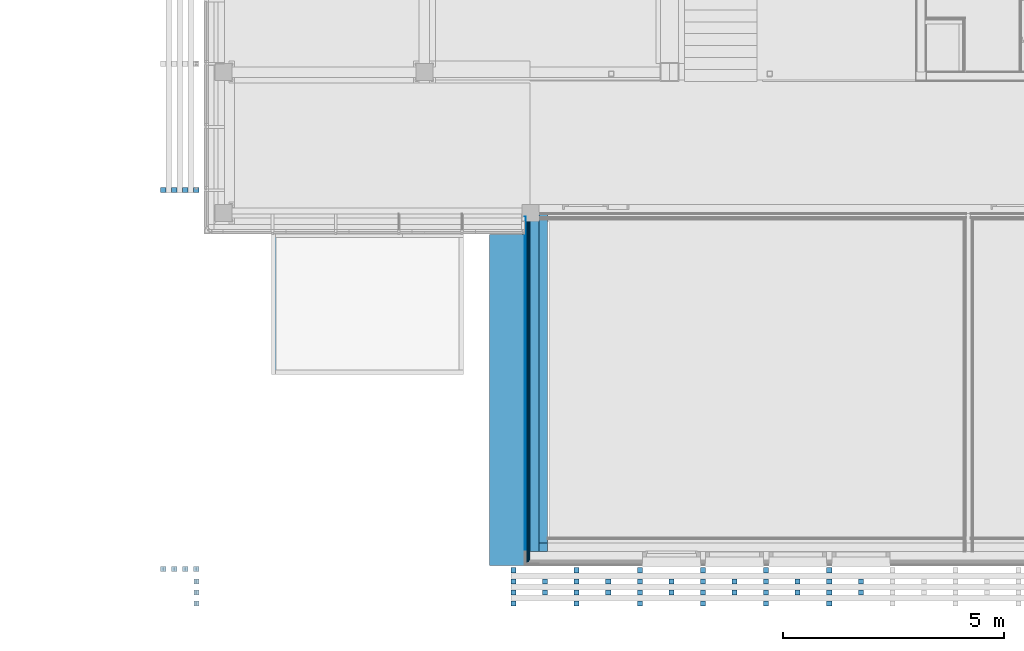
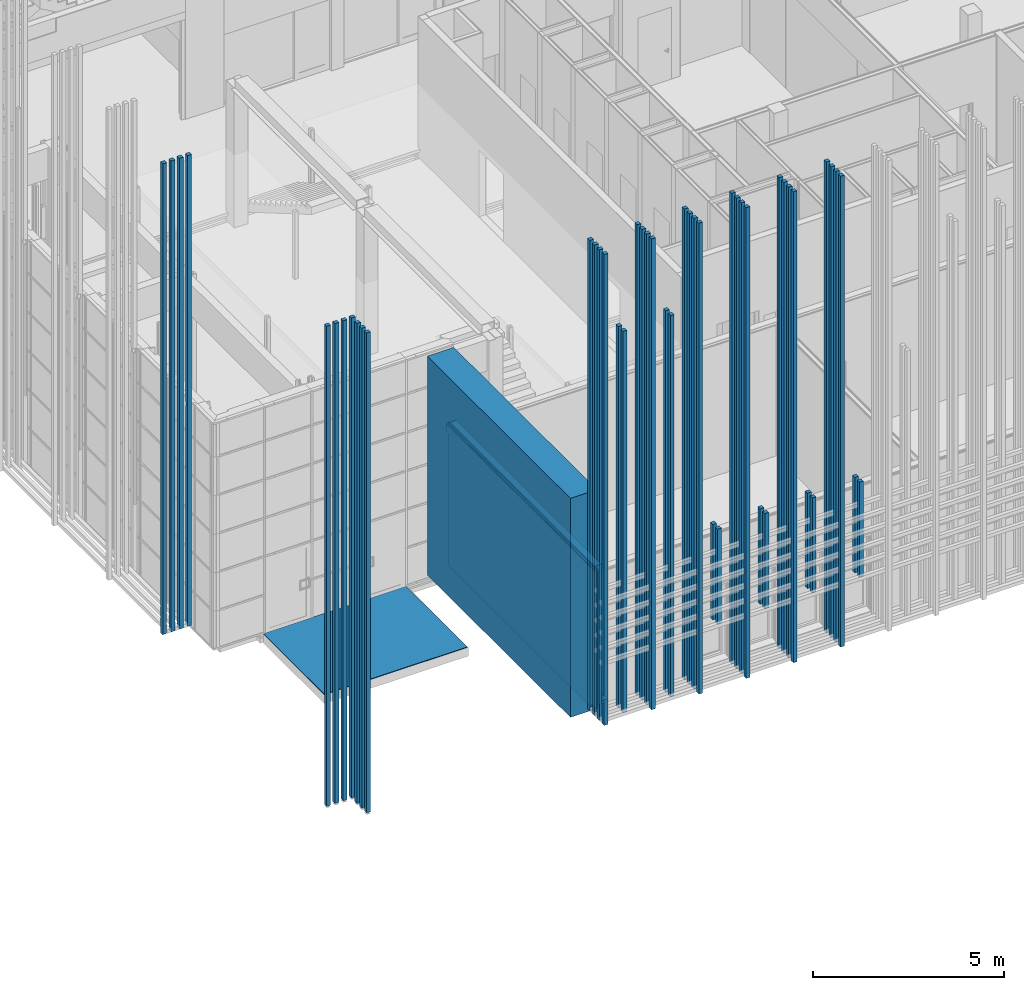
# One storey, part 132 of 260: 17 discrete accessories, 6 building element parts, 1 element without a shape of its own.
"""IFC2X3 building model written with IfcOpenShell, lengths in millimetres."""

import ifcopenshell
import ifcopenshell.guid

model = None  # the IFC model being written
_history = None  # IfcOwnerHistory: only IFC2X3 demands one
_inside = {}  # id of a spatial element -> (the spatial element, [elements in it])
_under = {}  # id of a project, library or spatial element -> (it, [spatial elements below it])
_declared = {}  # id of a project -> (the project, [libraries it declares])
_typed = {}  # id of a type object -> (the type object, [elements of that type])
_made_of = {}  # id of a material, layer set ... -> (it, [elements and type objects made of it])


def new_model(schema):
    """Start an empty IFC model of exactly this schema.

    Asked for "IFC4X3", IfcOpenShell would pick the latest addendum, in which some entities
    have other attributes; the version numbers below select the first issue.
    IFC2X3 requires an IfcOwnerHistory on every rooted entity: one is made here for all.
    """
    global model, _history
    if schema == "IFC4X3":
        model = ifcopenshell.file(schema_version=(4, 3, 0, 0))
    else:
        model = ifcopenshell.file(schema=schema)
    _inside.clear()
    _under.clear()
    _declared.clear()
    _typed.clear()
    _made_of.clear()
    _history = None
    if model.schema == "IFC2X3":
        org = make("IfcOrganization", Name="unknown")
        user = make(
            "IfcPersonAndOrganization",
            ThePerson=make("IfcPerson", FamilyName="unknown"),
            TheOrganization=org,
        )
        app = make(
            "IfcApplication",
            ApplicationDeveloper=org,
            Version="unknown",
            ApplicationFullName="unknown",
            ApplicationIdentifier="unknown",
        )
        _history = make(
            "IfcOwnerHistory",
            OwningUser=user,
            OwningApplication=app,
            ChangeAction="ADDED",
            CreationDate=0,
        )
    return model


def make(cls, **values):
    """One entity of the class cls with the attributes given. An attribute that is None is left unset."""
    return model.create_entity(
        cls, **{name: value for name, value in values.items() if value is not None}
    )


def entity(cls, *values):
    """Any entity or typed value of the class cls, its attributes in the order of the schema. None: left unset."""
    e = model.create_entity(cls)
    for i, value in enumerate(values):
        if value is not None:
            e[i] = value
    return e


def rooted(cls, **values):
    """An entity with a GlobalId (a new one), such as an element, a storey or a relation."""
    return make(cls, GlobalId=ifcopenshell.guid.new(), OwnerHistory=_history, **values)


def si_unit(unit_type, name, prefix=None):
    """IfcSIUnit, for example si_unit("LENGTHUNIT", "METRE", prefix="MILLI")."""
    return make("IfcSIUnit", UnitType=unit_type, Prefix=prefix, Name=name)


def converted_unit(unit_type, name, factor, base, dimensions=None, offset=None):
    """IfcConversionBasedUnit, such as the inch: factor (a typed value) times the base unit."""
    return make(
        "IfcConversionBasedUnit"
        if offset is None
        else "IfcConversionBasedUnitWithOffset",
        ConversionOffset=offset,
        Dimensions=None
        if dimensions is None
        else entity("IfcDimensionalExponents", *dimensions),
        UnitType=unit_type,
        Name=name,
        ConversionFactor=make(
            "IfcMeasureWithUnit", ValueComponent=factor, UnitComponent=base
        ),
    )


def derived_unit(unit_type, elements):
    """IfcDerivedUnit: a product of units, each with its exponent."""
    return make(
        "IfcDerivedUnit",
        Elements=[
            make("IfcDerivedUnitElement", Unit=unit, Exponent=power)
            for unit, power in elements
        ],
        UnitType=unit_type,
    )


def money_unit(currency):
    """IfcMonetaryUnit."""
    return make("IfcMonetaryUnit", Currency=currency)


def assignment(units):
    """IfcUnitAssignment: the units of a project."""
    return None if units is None else make("IfcUnitAssignment", Units=units)


def point(xyz):
    """IfcCartesianPoint."""
    return None if xyz is None else make("IfcCartesianPoint", Coordinates=xyz)


def direction(xyz):
    """IfcDirection."""
    return None if xyz is None else make("IfcDirection", DirectionRatios=xyz)


def frame(location, z_axis=None, x_axis=None):
    """IfcAxis2Placement3D, a coordinate frame: its origin and axes. An axis left out is left unset."""
    return make(
        "IfcAxis2Placement3D",
        Location=point(location),
        Axis=direction(z_axis),
        RefDirection=direction(x_axis),
    )


def origin_with_axes():
    """The frame at (0, 0, 0) with the z axis (0, 0, 1) and the x axis (1, 0, 0) written out."""
    return frame((0.0, 0.0, 0.0), z_axis=(0.0, 0.0, 1.0), x_axis=(1.0, 0.0, 0.0))


def place(relative_to, where):
    """IfcLocalPlacement: puts the frame where relative to a parent placement (None: the world)."""
    return make(
        "IfcLocalPlacement", PlacementRelTo=relative_to, RelativePlacement=where
    )


def context(
    kind, dimensions, precision=None, world=None, true_north=None, identifier=None
):
    """IfcGeometricRepresentationContext, for example the 3D "Model" context."""
    return make(
        "IfcGeometricRepresentationContext",
        ContextIdentifier=identifier,
        ContextType=kind,
        CoordinateSpaceDimension=dimensions,
        Precision=precision,
        WorldCoordinateSystem=world,
        TrueNorth=true_north,
    )


def subcontext(parent, identifier, kind, view, scale=None):
    """IfcGeometricRepresentationSubContext, for example "Body" below "Model"."""
    return make(
        "IfcGeometricRepresentationSubContext",
        ContextIdentifier=identifier,
        ContextType=kind,
        ParentContext=parent,
        TargetScale=scale,
        TargetView=view,
    )


def project(units=None, contexts=None):
    """IfcProject with its units and contexts."""
    return rooted(
        "IfcProject",
        Name="project",
        RepresentationContexts=contexts,
        UnitsInContext=assignment(units),
    )


def spatial(cls, under=None, at=None, **own):
    """A site, building, storey or space (cls), placed at a placement, below another one or the project."""
    s = rooted(cls, ObjectPlacement=at, **own)
    if under is not None:
        _under.setdefault(under.id(), (under, []))[1].append(s)
    return s


def faces_of(points, faces, orient=None, outer=None):
    """IfcFace entities. A face is a list of loops; a loop is a list of indices into points, from 0.

    orient and outer hold one flag for each loop. By default every Orientation is true, the
    first loop of a face is its IfcFaceOuterBound and the others are IfcFaceBound.
    """
    made = []
    for i, loops in enumerate(faces):
        bounds = []
        for j, loop in enumerate(loops):
            is_outer = j == 0 if outer is None else outer[i][j]
            bounds.append(
                make(
                    "IfcFaceOuterBound" if is_outer else "IfcFaceBound",
                    Bound=make("IfcPolyLoop", Polygon=[points[k] for k in loop]),
                    Orientation=True if orient is None else orient[i][j],
                )
            )
        made.append(make("IfcFace", Bounds=bounds))
    return made


def faceted_brep(points, faces, orient=None, outer=None, voids=None):
    """IfcFacetedBrep: a solid bounded by flat faces; with voids (closed shells), ...WithVoids."""
    shared = [point(p) for p in points]
    hull = make("IfcClosedShell", CfsFaces=faces_of(shared, faces, orient, outer))
    if voids is None:
        return make("IfcFacetedBrep", Outer=hull)
    return make(
        "IfcFacetedBrepWithVoids",
        Outer=hull,
        Voids=[
            make(cls, CfsFaces=faces_of(shared, fs, o, b)) for cls, fs, o, b in voids
        ],
    )


def shape(context_of_items, identifier, shape_type, items):
    """IfcShapeRepresentation: the items that make up one representation, for example the "Body"."""
    return make(
        "IfcShapeRepresentation",
        ContextOfItems=context_of_items,
        RepresentationIdentifier=identifier,
        RepresentationType=shape_type,
        Items=items,
    )


def material(Name=None, Category=None):
    """IfcMaterial."""
    return make("IfcMaterial", Name=Name, Category=Category)


def material_list(materials):
    """IfcMaterialList."""
    return make("IfcMaterialList", Materials=materials)


def made_of(thing, what):
    """Note that an element or type object is made of a material, layer set ...; save() writes the relation."""
    if what is not None:
        _made_of.setdefault(what.id(), (what, []))[1].append(thing)
    return thing


def type_object(cls, material=None, **own):
    """A type object (cls), such as IfcWallType, which elements share."""
    return made_of(rooted(cls, **own), material)


def element(
    cls,
    number,
    at=None,
    inside=None,
    cuts=None,
    type_object=None,
    material=None,
    context=None,
    identifier="Body",
    shape_type=None,
    held_by="IfcProductDefinitionShape",
    body=None,
    shapes=None,
    **own,
):
    """One element of the class cls, such as IfcWall. Its Tag is "e" and its number.

    at: its placement. inside: the storey or other place that contains it. cuts: it is an
    opening in that element (IfcRelVoidsElement). A single representation is given by context,
    identifier, shape_type and body (its items); several are given by shapes. held_by: the class
    of the entity that holds the representations. save() writes the other relations.
    """
    e = rooted(cls, Tag="e%d" % number, ObjectPlacement=at, **own)
    if body is not None:
        shapes = [shape(context, identifier, shape_type, body)]
    if shapes is not None:
        e.Representation = make(held_by, Representations=shapes)
    if inside is not None:
        _inside.setdefault(inside.id(), (inside, []))[1].append(e)
    if cuts is not None:
        rooted(
            "IfcRelVoidsElement", RelatingBuildingElement=cuts, RelatedOpeningElement=e
        )
    if type_object is not None:
        _typed.setdefault(type_object.id(), (type_object, []))[1].append(e)
    return made_of(e, material)


def aggregate(whole, parts):
    """IfcRelAggregates: a whole, such as a stair, and the parts it consists of."""
    return rooted("IfcRelAggregates", RelatingObject=whole, RelatedObjects=parts)


def save(model, path):
    """Write the relations noted so far, then the file.

    IfcRelAggregates (storeys below a building ...), IfcRelContainedInSpatialStructure (elements
    in a storey), IfcRelDefinesByType, IfcRelAssociatesMaterial and IfcRelDeclares: one each for
    every whole, place, type object, material and project.
    """
    for whole, parts in _under.values():
        aggregate(whole, parts)
    for where, things in _inside.values():
        rooted(
            "IfcRelContainedInSpatialStructure",
            RelatedElements=things,
            RelatingStructure=where,
        )
    for kind, things in _typed.values():
        rooted("IfcRelDefinesByType", RelatedObjects=things, RelatingType=kind)
    for what, things in _made_of.values():
        rooted("IfcRelAssociatesMaterial", RelatedObjects=things, RelatingMaterial=what)
    for by, libraries in _declared.values():
        rooted("IfcRelDeclares", RelatingContext=by, RelatedDefinitions=libraries)
    model.write(path)


model = new_model("IFC2X3")

# Units and contexts
model_context = context("Model", 3, precision=0.01, world=origin_with_axes(), true_north=direction((0.0, 1.0)))
body_context = subcontext(model_context, "Body", "Model", "MODEL_VIEW")
ifc_project = project(units=[si_unit("LENGTHUNIT", "METRE", prefix="MILLI"), si_unit("AREAUNIT", "SQUARE_METRE"), si_unit("VOLUMEUNIT", "CUBIC_METRE"), converted_unit("PLANEANGLEUNIT", "DEGREE", entity("IfcPlaneAngleMeasure", 0.0174532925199), si_unit("PLANEANGLEUNIT", "RADIAN"), dimensions=[0, 0, 0, 0, 0, 0, 0]), money_unit("EUR"), converted_unit("TIMEUNIT", "Year", entity("IfcTimeMeasure", 31556926.0), si_unit("TIMEUNIT", "SECOND"), dimensions=[0, 0, 1, 0, 0, 0, 0]), si_unit("MASSUNIT", "GRAM", prefix="KILO"), si_unit("THERMODYNAMICTEMPERATUREUNIT", "DEGREE_CELSIUS"), si_unit("LUMINOUSINTENSITYUNIT", "LUMEN"), si_unit("ENERGYUNIT", "JOULE", prefix="MEGA"), derived_unit("THERMALCONDUCTANCEUNIT", [(si_unit("POWERUNIT", "WATT"), 1), (si_unit("LENGTHUNIT", "METRE"), -1), (si_unit("THERMODYNAMICTEMPERATUREUNIT", "KELVIN"), -1)]), derived_unit("SPECIFICHEATCAPACITYUNIT", [(si_unit("ENERGYUNIT", "JOULE"), 1), (si_unit("MASSUNIT", "GRAM", prefix="KILO"), -1), (si_unit("THERMODYNAMICTEMPERATUREUNIT", "KELVIN"), -1)]), derived_unit("MASSDENSITYUNIT", [(si_unit("MASSUNIT", "GRAM", prefix="KILO"), 1), (si_unit("VOLUMEUNIT", "CUBIC_METRE"), -1)])], contexts=[model_context])

# Site, building, storey
site_placement = place(None, origin_with_axes())
site = spatial("IfcSite", under=ifc_project, at=site_placement, Name="Kolde pst 67a", CompositionType="ELEMENT")
building_placement = place(site_placement, origin_with_axes())
building = spatial("IfcBuilding", under=site, at=building_placement, Name="Riigigümnaasium", CompositionType="ELEMENT")
storey_placement = place(building_placement, origin_with_axes())
storey = spatial("IfcBuildingStorey", under=building, at=storey_placement, Name="1. korrus", CompositionType="ELEMENT", Elevation=0.0)

# Discrete accessories
ifc_material_1 = material(Name="_VÄLISVIIMISTLUS - sõrmjätkatud puitprussid 120x115mm, liitekohad vähemärgatavad, Platowood sõrmjätkatud kuusk või samaväärne; eeltöödeldud tuletõkkevõõbaga, tuletundlikkus B-s1, d0, Woodsafe Exterior WFX™ või samaväärne; kinnitused vastavalt EK osale")
ifc_material_list_1 = material_list([ifc_material_1, ifc_material_1, ifc_material_1, ifc_material_1])
discrete_accessory_type_1 = type_object("IfcDiscreteAccessoryType", Name="120 4-ne vertikaalne 870 x 115")
for number, where, z_axis, x_axis in (
    (1, (54811.6293724, -312.000647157, 280.0), (0.0, 0.0, 1.0), (6.32316306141e-05, -0.999999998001, 0.0)),
    (2, (56241.5985177, -311.998926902, 280.0), (0.0, 0.0, 1.0), (6.32316306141e-05, -0.999999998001, 0.0)),
    (3, (57671.5985177, -311.996510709, 280.0), (0.0, 0.0, 1.0), (6.32316306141e-05, -0.999999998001, 0.0)),
    (4, (59101.5985163, -312.00220116, 280.0), (0.0, 0.0, 1.0), (6.32316306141e-05, -0.999999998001, 0.0)),
    (5, (60531.5984725, -311.999961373, 280.0), (0.0, 0.0, 1.0), (6.32316306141e-05, -0.999999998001, 0.0)),
    (6, (61961.5984751, -311.999224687, 280.0), (0.0, 0.0, 1.0), (6.32316306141e-05, -0.999999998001, 0.0)),
):
    element("IfcDiscreteAccessory", number, at=place(storey_placement, frame(where, z_axis=z_axis, x_axis=x_axis)), inside=storey, type_object=discrete_accessory_type_1, material=ifc_material_list_1, Name="Päikesevarjestus", context=body_context, shape_type="Brep", body=[
        faceted_brep([(133.0, 45.0, 0.0), (13.0, 45.0, 0.0), (13.0, 45.0, 15050.0), (133.0, 45.0, 15050.0), (133.0, -70.0, 0.0), (13.0, -70.0, 0.0), (13.0, -70.0, 15050.0), (133.0, -70.0, 15050.0)], [[[0, 1, 2, 3]], [[0, 4, 5, 1]], [[1, 5, 6, 2]], [[3, 2, 6, 7]], [[4, 0, 3, 7]], [[5, 4, 7, 6]]]),
        faceted_brep([(383.0, 45.0, 0.0), (263.0, 45.0, 0.0), (263.0, 45.0, 15050.0), (383.0, 45.0, 15050.0), (383.0, -70.0, 0.0), (263.0, -70.0, 0.0), (263.0, -70.0, 15050.0), (383.0, -70.0, 15050.0)], [[[0, 1, 2, 3]], [[0, 4, 5, 1]], [[1, 5, 6, 2]], [[3, 2, 6, 7]], [[4, 0, 3, 7]], [[5, 4, 7, 6]]]),
        faceted_brep([(633.0, 45.0, 0.0), (513.0, 45.0, 0.0), (513.0, 45.0, 15050.0), (633.0, 45.0, 15050.0), (633.0, -70.0, 0.0), (513.0, -70.0, 0.0), (513.0, -70.0, 15050.0), (633.0, -70.0, 15050.0)], [[[0, 1, 2, 3]], [[0, 4, 5, 1]], [[1, 5, 6, 2]], [[3, 2, 6, 7]], [[4, 0, 3, 7]], [[5, 4, 7, 6]]]),
        faceted_brep([(883.0, 45.0, 0.0), (763.0, 45.0, 0.0), (763.0, 45.0, 15050.0), (883.0, 45.0, 15050.0), (883.0, -70.0, 0.0), (763.0, -70.0, 0.0), (763.0, -70.0, 15050.0), (883.0, -70.0, 15050.0)], [[[0, 1, 2, 3]], [[0, 4, 5, 1]], [[1, 5, 6, 2]], [[3, 2, 6, 7]], [[4, 0, 3, 7]], [[5, 4, 7, 6]]]),
    ])
discrete_accessory_1_placement = place(storey_placement, frame((47687.9824571, -362.499623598, 0.0), z_axis=(0.0, 0.0, 1.0), x_axis=(-0.999999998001, -6.3231630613e-05, 0.0)))
element("IfcDiscreteAccessory", 7, at=discrete_accessory_1_placement, inside=storey, type_object=discrete_accessory_type_1, material=ifc_material_list_1, Name="Päikesevarjestus", context=body_context, shape_type="Brep", body=[
    faceted_brep([(13.0, 45.0, 0.0), (133.0, 45.0, 0.0), (133.0, -70.0, 0.0), (13.0, -70.0, 0.0), (78.0, 20.0, 0.0), (73.0, 20.0, 0.0), (73.0, -40.0, 0.0), (78.0, -40.0, 0.0), (133.0, 45.0, 15340.0), (13.0, 45.0, 15340.0), (133.0, -70.0, 15340.0), (13.0, -70.0, 15340.0), (78.0, 20.0, 100.0), (73.0, 20.0, 100.0), (73.0, -40.0, 100.0), (78.0, -40.0, 100.0)], [[[0, 1, 2, 3], [4, 5, 6, 7]], [[8, 1, 0, 9]], [[10, 2, 1, 8]], [[11, 3, 2, 10]], [[9, 0, 3, 11]], [[5, 4, 12, 13]], [[6, 5, 13, 14]], [[7, 6, 14, 15]], [[4, 7, 15, 12]], [[10, 8, 9, 11]], [[14, 13, 12, 15]]]),
    faceted_brep([(263.0, 45.0, 0.0), (383.0, 45.0, 0.0), (383.0, -70.0, 0.0), (263.0, -70.0, 0.0), (328.0, 20.0, 0.0), (323.0, 20.0, 0.0), (323.0, -40.0, 0.0), (328.0, -40.0, 0.0), (383.0, 45.0, 15340.0), (263.0, 45.0, 15340.0), (383.0, -70.0, 15340.0), (263.0, -70.0, 15340.0), (328.0, 20.0, 100.0), (323.0, 20.0, 100.0), (323.0, -40.0, 100.0), (328.0, -40.0, 100.0)], [[[0, 1, 2, 3], [4, 5, 6, 7]], [[8, 1, 0, 9]], [[10, 2, 1, 8]], [[11, 3, 2, 10]], [[9, 0, 3, 11]], [[5, 4, 12, 13]], [[6, 5, 13, 14]], [[7, 6, 14, 15]], [[4, 7, 15, 12]], [[10, 8, 9, 11]], [[14, 13, 12, 15]]]),
    faceted_brep([(513.0, 45.0, 0.0), (633.0, 45.0, 0.0), (633.0, -70.0, 0.0), (513.0, -70.0, 0.0), (578.0, 20.0, 0.0), (573.0, 20.0, 0.0), (573.0, -40.0, 0.0), (578.0, -40.0, 0.0), (633.0, 45.0, 15340.0), (513.0, 45.0, 15340.0), (633.0, -70.0, 15340.0), (513.0, -70.0, 15340.0), (578.0, 20.0, 100.0), (573.0, 20.0, 100.0), (573.0, -40.0, 100.0), (578.0, -40.0, 100.0)], [[[0, 1, 2, 3], [4, 5, 6, 7]], [[8, 1, 0, 9]], [[10, 2, 1, 8]], [[11, 3, 2, 10]], [[9, 0, 3, 11]], [[5, 4, 12, 13]], [[6, 5, 13, 14]], [[7, 6, 14, 15]], [[4, 7, 15, 12]], [[10, 8, 9, 11]], [[14, 13, 12, 15]]]),
    faceted_brep([(763.0, 45.0, 0.0), (883.0, 45.0, 0.0), (883.0, -70.0, 0.0), (763.0, -70.0, 0.0), (828.0, 20.0, 0.0), (823.0, 20.0, 0.0), (823.0, -40.0, 0.0), (828.0, -40.0, 0.0), (883.0, 45.0, 15340.0), (763.0, 45.0, 15340.0), (883.0, -70.0, 15340.0), (763.0, -70.0, 15340.0), (828.0, 20.0, 100.0), (823.0, 20.0, 100.0), (823.0, -40.0, 100.0), (828.0, -40.0, 100.0)], [[[0, 1, 2, 3], [4, 5, 6, 7]], [[8, 1, 0, 9]], [[10, 2, 1, 8]], [[11, 3, 2, 10]], [[9, 0, 3, 11]], [[5, 4, 12, 13]], [[6, 5, 13, 14]], [[7, 6, 14, 15]], [[4, 7, 15, 12]], [[10, 8, 9, 11]], [[14, 13, 12, 15]]]),
])
discrete_accessory_2_placement = place(storey_placement, frame((47687.9900449, 8216.90519944, 280.0), z_axis=(0.0, 0.0, 1.0), x_axis=(-0.999999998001, -6.32316306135e-05, 0.0)))
element("IfcDiscreteAccessory", 8, at=discrete_accessory_2_placement, inside=storey, type_object=discrete_accessory_type_1, material=ifc_material_list_1, Name="Päikesevarjestus", context=body_context, shape_type="Brep", body=[
    faceted_brep([(97.9949520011, -34.8342342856, 6989.99966445), (97.9927388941, -69.8342342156, 6989.99966445), (47.992738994, -69.8310726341, 6989.99966445), (47.9927283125, -70.0, 6989.99966445), (133.0, -70.0, 6989.99966445), (133.0, -34.8364477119, 6989.99966445), (97.9949520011, -34.8342342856, 2150.0), (97.9927388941, -69.8342342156, 2150.0), (47.992738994, -69.8310726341, 2150.0), (47.9949521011, -34.8310727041, 6989.99966445), (47.9949521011, -34.8310727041, 7139.99966445), (47.9927283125, -70.0, 7139.99966445), (133.0, -70.0, 0.0), (133.0, -70.0, 7139.99966445), (133.0, -70.0, 15050.0), (13.0, -70.0, 15050.0), (13.0, -70.0, 0.0), (133.0, -34.8364477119, 7139.99966445), (133.0, 45.0, 0.0), (133.0, 45.0, 15050.0), (47.9949521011, -34.8310727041, 2150.0), (13.0, 45.0, 15050.0), (13.0, 45.0, 0.0)], [[[0, 1, 2, 3, 4, 5]], [[1, 0, 6, 7]], [[2, 1, 7, 8]], [[2, 9, 10, 11, 3]], [[12, 4, 3, 11, 13, 14, 15, 16]], [[17, 5, 4, 12, 18, 19, 14, 13]], [[9, 0, 5, 17, 10]], [[0, 9, 20, 6]], [[8, 7, 6, 20]], [[9, 2, 8, 20]], [[17, 13, 11, 10]], [[15, 14, 19, 21]], [[15, 21, 22, 16]], [[16, 22, 18, 12]], [[21, 19, 18, 22]]]),
    faceted_brep([(383.0, 45.0, 0.0), (263.0, 45.0, 0.0), (263.0, 45.0, 15050.0), (383.0, 45.0, 15050.0), (383.0, -70.0, 0.0), (263.0, -70.0, 0.0), (263.0, -70.0, 15050.0), (383.0, -70.0, 15050.0)], [[[0, 1, 2, 3]], [[0, 4, 5, 1]], [[1, 5, 6, 2]], [[3, 2, 6, 7]], [[4, 0, 3, 7]], [[5, 4, 7, 6]]]),
    faceted_brep([(633.0, 45.0, 0.0), (513.0, 45.0, 0.0), (513.0, 45.0, 15050.0), (633.0, 45.0, 15050.0), (633.0, -70.0, 0.0), (513.0, -70.0, 0.0), (513.0, -70.0, 15050.0), (633.0, -70.0, 15050.0)], [[[0, 1, 2, 3]], [[0, 4, 5, 1]], [[1, 5, 6, 2]], [[3, 2, 6, 7]], [[4, 0, 3, 7]], [[5, 4, 7, 6]]]),
    faceted_brep([(883.0, 45.0, 0.0), (763.0, 45.0, 0.0), (763.0, 45.0, 15050.0), (883.0, 45.0, 15050.0), (883.0, -70.0, 0.0), (763.0, -70.0, 0.0), (763.0, -70.0, 15050.0), (883.0, -70.0, 15050.0)], [[[0, 1, 2, 3]], [[0, 4, 5, 1]], [[1, 5, 6, 2]], [[3, 2, 6, 7]], [[4, 0, 3, 7]], [[5, 4, 7, 6]]]),
])
ifc_material_list_2 = material_list([ifc_material_1, ifc_material_1, ifc_material_1])
discrete_accessory_type_2 = type_object("IfcDiscreteAccessoryType", Name="120 4-ne vertikaalne -1 nurgaribi 620 x 115")
discrete_accessory_3_placement = place(storey_placement, frame((47627.4854607, -312.000445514, 0.0), z_axis=(0.0, 0.0, 1.0), x_axis=(0.0, -1.0, 0.0)))
element("IfcDiscreteAccessory", 9, at=discrete_accessory_3_placement, inside=storey, type_object=discrete_accessory_type_2, material=ifc_material_list_2, Name="Päikesevarjestus", context=body_context, shape_type="Brep", body=[
    faceted_brep([(263.0, 45.0, 0.0), (383.0, 45.0, 0.0), (383.0, -70.0, 0.0), (263.0, -70.0, 0.0), (353.004109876, -19.9943090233, 0.0), (353.003793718, -14.9943090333, 0.0), (293.003793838, -14.9981029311, 0.0), (293.004109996, -19.9981029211, 0.0), (383.0, 45.0, 15340.0), (263.0, 45.0, 15340.0), (383.0, -70.0, 15340.0), (263.0, -70.0, 15340.0), (353.004109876, -19.9943090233, 100.0), (353.003793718, -14.9943090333, 100.0), (293.003793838, -14.9981029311, 100.0), (293.004109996, -19.9981029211, 100.0)], [[[0, 1, 2, 3], [4, 5, 6, 7]], [[8, 1, 0, 9]], [[10, 2, 1, 8]], [[11, 3, 2, 10]], [[9, 0, 3, 11]], [[5, 4, 12, 13]], [[6, 5, 13, 14]], [[7, 6, 14, 15]], [[4, 7, 15, 12]], [[10, 8, 9, 11]], [[14, 13, 12, 15]]]),
    faceted_brep([(513.0, 45.0, 0.0), (633.0, 45.0, 0.0), (633.0, -70.0, 0.0), (513.0, -70.0, 0.0), (603.003950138, -17.4680679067, 0.0), (603.00363398, -12.4680679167, 0.0), (543.0036341, -12.4718618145, 0.0), (543.003950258, -17.4718618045, 0.0), (633.0, 45.0, 15340.0), (513.0, 45.0, 15340.0), (633.0, -70.0, 15340.0), (513.0, -70.0, 15340.0), (603.003950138, -17.4680679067, 100.0), (603.00363398, -12.4680679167, 100.0), (543.0036341, -12.4718618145, 100.0), (543.003950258, -17.4718618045, 100.0)], [[[0, 1, 2, 3], [4, 5, 6, 7]], [[8, 1, 0, 9]], [[10, 2, 1, 8]], [[11, 3, 2, 10]], [[9, 0, 3, 11]], [[5, 4, 12, 13]], [[6, 5, 13, 14]], [[7, 6, 14, 15]], [[4, 7, 15, 12]], [[10, 8, 9, 11]], [[14, 13, 12, 15]]]),
    faceted_brep([(763.0, 45.0, 0.0), (883.0, 45.0, 0.0), (883.0, -70.0, 0.0), (763.0, -70.0, 0.0), (853.003949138, -17.4522599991, 0.0), (853.00363298, -12.4522600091, 0.0), (793.0036331, -12.4560539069, 0.0), (793.003949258, -17.4560538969, 0.0), (883.0, 45.0, 15340.0), (763.0, 45.0, 15340.0), (883.0, -70.0, 15340.0), (763.0, -70.0, 15340.0), (853.003949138, -17.4522599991, 100.0), (853.00363298, -12.4522600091, 100.0), (793.0036331, -12.4560539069, 100.0), (793.003949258, -17.4560538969, 100.0)], [[[0, 1, 2, 3], [4, 5, 6, 7]], [[8, 1, 0, 9]], [[10, 2, 1, 8]], [[11, 3, 2, 10]], [[9, 0, 3, 11]], [[5, 4, 12, 13]], [[6, 5, 13, 14]], [[7, 6, 14, 15]], [[4, 7, 15, 12]], [[10, 8, 9, 11]], [[14, 13, 12, 15]]]),
])
ifc_material_list_3 = material_list([ifc_material_1, ifc_material_1])
discrete_accessory_type_3 = type_object("IfcDiscreteAccessoryType", Name="1+paiksekaitse 3 370 x 115")
discrete_accessory_4_placement = place(storey_placement, frame((55574.1685762, -1292.00007473, 280.000116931), z_axis=(0.0, 0.0, 1.0), x_axis=(0.0, 1.0, 0.0)))
element("IfcDiscreteAccessory", 10, at=discrete_accessory_4_placement, inside=storey, type_object=discrete_accessory_type_3, material=ifc_material_list_3, Name="Päikesevarjestus", context=body_context, shape_type="Brep", body=[
    faceted_brep([(467.0, 117.5, 0.0), (347.0, 117.5, 0.0), (347.0, 117.5, 12197.4998831), (467.0, 117.5, 12197.4998831), (467.0, 2.5, 0.0), (347.0, 2.5, 0.0), (347.0, 2.5, 12197.4998831), (467.0, 2.5, 12197.4998831)], [[[0, 1, 2, 3]], [[0, 4, 5, 1]], [[1, 5, 6, 2]], [[3, 2, 6, 7]], [[4, 0, 3, 7]], [[5, 4, 7, 6]]]),
    faceted_brep([(717.0, 117.5, 0.0), (597.0, 117.5, 0.0), (597.0, 117.5, 12197.4998831), (717.0, 117.5, 12197.4998831), (717.0, 2.5, 0.0), (597.0, 2.5, 0.0), (597.0, 2.5, 12197.4998831), (717.0, 2.5, 12197.4998831)], [[[0, 1, 2, 3]], [[0, 4, 5, 1]], [[1, 5, 6, 2]], [[3, 2, 6, 7]], [[4, 0, 3, 7]], [[5, 4, 7, 6]]]),
])
for number, where, z_axis, x_axis in (
    (11, (58435.0221015, -1292.00777448, 2100.00014213), (0.0, 0.0, 1.0), (0.0, 1.0, 0.0)),
    (12, (61294.1376763, -1292.00007473, 2100.00014213), (0.0, 0.0, 1.0), (0.0, 1.0, 0.0)),
    (13, (59864.1377201, -1292.00007473, 2100.00014213), (0.0, 0.0, 1.0), (0.0, 1.0, 0.0)),
    (14, (62725.0447932, -1292.00800125, 2100.00014213), (0.0, 0.0, 1.0), (0.0, 1.0, 0.0)),
):
    element("IfcDiscreteAccessory", number, at=place(storey_placement, frame(where, z_axis=z_axis, x_axis=x_axis)), inside=storey, type_object=discrete_accessory_type_3, material=ifc_material_list_3, Name="Päikesevarjestus", context=body_context, shape_type="Brep", body=[
        faceted_brep([(467.0, 117.5, 0.0), (347.0, 117.5, 0.0), (347.0, 117.5, 3050.0), (467.0, 117.5, 3050.0), (467.0, 2.5, 0.0), (347.0, 2.5, 0.0), (347.0, 2.5, 3050.0), (467.0, 2.5, 3050.0)], [[[0, 1, 2, 3]], [[0, 4, 5, 1]], [[1, 5, 6, 2]], [[3, 2, 6, 7]], [[4, 0, 3, 7]], [[5, 4, 7, 6]]]),
        faceted_brep([(717.0, 117.5, 0.0), (597.0, 117.5, 0.0), (597.0, 117.5, 3050.0), (717.0, 117.5, 3050.0), (717.0, 2.5, 0.0), (597.0, 2.5, 0.0), (597.0, 2.5, 3050.0), (717.0, 2.5, 3050.0)], [[[0, 1, 2, 3]], [[0, 4, 5, 1]], [[1, 5, 6, 2]], [[3, 2, 6, 7]], [[4, 0, 3, 7]], [[5, 4, 7, 6]]]),
    ])
discrete_accessory_5_placement = place(storey_placement, frame((57004.1377215, -1292.00007473, 280.0), z_axis=(0.0, 0.0, 1.0), x_axis=(0.0, 1.0, 0.0)))
element("IfcDiscreteAccessory", 15, at=discrete_accessory_5_placement, inside=storey, type_object=discrete_accessory_type_3, material=ifc_material_list_3, Name="Päikesevarjestus", context=body_context, shape_type="Brep", body=[
    faceted_brep([(467.0, 117.5, 0.0), (347.0, 117.5, 0.0), (347.0, 117.5, 12197.5), (467.0, 117.5, 12197.5), (467.0, 2.5, 0.0), (347.0, 2.5, 0.0), (347.0, 2.5, 12197.5), (467.0, 2.5, 12197.5)], [[[0, 1, 2, 3]], [[0, 4, 5, 1]], [[1, 5, 6, 2]], [[3, 2, 6, 7]], [[4, 0, 3, 7]], [[5, 4, 7, 6]]]),
    faceted_brep([(717.0, 117.5, 0.0), (597.0, 117.5, 0.0), (597.0, 117.5, 12197.5), (717.0, 117.5, 12197.5), (717.0, 2.5, 0.0), (597.0, 2.5, 0.0), (597.0, 2.5, 12197.5), (717.0, 2.5, 12197.5)], [[[0, 1, 2, 3]], [[0, 4, 5, 1]], [[1, 5, 6, 2]], [[3, 2, 6, 7]], [[4, 0, 3, 7]], [[5, 4, 7, 6]]]),
])
ifc_material_2 = material(Name="_METALL - teras")
discrete_accessory_type_4 = type_object("IfcDiscreteAccessoryType", Name="_METALL - teras 22")
discrete_accessory_6_placement = place(storey_placement, frame((49311.5510796, 7250.00001698, 0.0), z_axis=(0.0, 0.0, 1.0), x_axis=(1.0, 0.0, 0.0)))
element("IfcDiscreteAccessory", 16, at=discrete_accessory_6_placement, inside=storey, type_object=discrete_accessory_type_4, material=ifc_material_2, Name="30mm süvistatud roostevaba porirest betoonalusel vastavalt EK osale, kalle kaevu poole ≥1:80; resti silm 33x11mm, hambuline; porirest eemaldatav puhastuseks; vt joonist AR-7-207; sadevee kogumiseks resti all settepõhjaga restkaev, maapinnast -200mm kõrgusel, vesi koguneb sadeveetorustikku, vt VK osa", context=body_context, shape_type="Brep", body=[
    faceted_brep([(0.0, 0.0, 0.0), (0.0, 0.0, -22.0), (0.0, -3199.96199159, -22.0), (0.0, -3199.96199159, 0.0), (4319.09163141, 0.0, 0.0), (4319.09163141, 0.0, -22.0), (4319.09163141, -3199.96199159, -22.0), (4319.09163141, -3199.96199159, 0.0)], [[[0, 1, 2, 3]], [[4, 5, 1, 0]], [[2, 1, 5, 6]], [[3, 2, 6, 7]], [[0, 3, 7, 4]], [[7, 6, 5, 4]]]),
])
ifc_material_3 = material(Name="_ÕHK")
discrete_accessory_type_5 = type_object("IfcDiscreteAccessoryType", Name="_ÕHK 7000")
discrete_accessory_7_placement = place(storey_placement, frame((54255.9713948, -272.0, 7150.0), z_axis=(0.0, 0.0, 1.0), x_axis=(1.0, 0.0, 0.0)))
element("IfcDiscreteAccessory", 17, at=discrete_accessory_7_placement, inside=storey, type_object=discrete_accessory_type_5, material=ifc_material_3, Name="Kunstiteos", context=body_context, shape_type="Brep", body=[
    faceted_brep([(0.0, 0.0, -7000.0), (800.01275095, 0.0, -7000.0), (800.01275095, 0.0, 0.0), (0.0, 0.0, 0.0), (0.0, 7497.99814478, -7000.0), (800.01275095, 7497.99814478, -7000.0), (800.01275095, 7497.99814478, 0.0), (0.0, 7497.99814478, 0.0)], [[[0, 1, 2, 3]], [[0, 4, 5, 1]], [[1, 5, 6, 2]], [[3, 2, 6, 7]], [[4, 0, 3, 7]], [[5, 4, 7, 6]]]),
])

# Wall, building element parts
wall_type = type_object("IfcWallType", Name="VS-CLT-20/1 512", PredefinedType="NOTDEFINED")
wall_placement = place(storey_placement, frame((55369.9810195, 7700.0, 0.0), z_axis=(0.0, 0.0, 1.0), x_axis=(3.74232799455e-06, -0.999999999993, 0.0)))
wall = element("IfcWall", 18, at=wall_placement, inside=storey, type_object=wall_type, Name="Välissein")
ifc_material_4 = material(Name="_KANDETARIND - CLT ristkihtliimpuit vastavalt EK osale, CLT paigaldusvuugid teibitakse ROTHOBLAAS teibiga")
building_element_part_1_placement = place(wall_placement, origin_with_axes())
building_element_part_1 = element("IfcBuildingElementPart", 19, at=building_element_part_1_placement, material=ifc_material_4, Name="_KANDETARIND - CLT ristkihtliimpuit vastavalt EK osale, CLT paigaldusvuugid teibitakse ROTHOBLAAS teibiga", context=body_context, shape_type="Brep", body=[
    faceted_brep([(7660.00000006, 200.0, 0.0), (0.0, 200.0, 0.0), (0.0, 200.0, 4170.0), (7460.00074852, 200.0, 4170.0), (7460.00074852, 200.0, 100.0), (7660.00074852, 199.999999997, 100.0), (7660.00000006, 0.0, 0.0), (0.0, 0.0, 0.0), (0.0, 0.0, 4170.0), (79.8455391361, -2.41102924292e-05, 4170.0), (7460.00000005, 0.00145679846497, 4170.0), (7460.00000006, 0.0, 100.0), (7660.00000006, 0.0, 100.0)], [[[0, 1, 2, 3, 4, 5]], [[0, 6, 7, 1]], [[1, 7, 8, 2]], [[8, 9, 10, 3, 2]], [[11, 4, 3, 10]], [[4, 11, 12, 5]], [[12, 6, 0, 5]], [[11, 10, 9, 8, 7, 6, 12]]]),
])
ifc_material_5 = material(Name="_SOOJUSTUS - mineraalvill, λD<0,032 W/(mK), kuumtsingitud lehtteras termoroovidega, S350GD+Zn275 vastavalt EN10346, ISOVER EXTREME 32 200mm või samaväärne")
building_element_part_2_placement = place(wall_placement, origin_with_axes())
building_element_part_2 = element("IfcBuildingElementPart", 20, at=building_element_part_2_placement, material=ifc_material_5, Name="_SOOJUSTUS - mineraalvill, λD<0,032 W/(mK), kuumtsingitud lehtteras termoroovidega, S350GD+Zn275 vastavalt EN10346, ISOVER EXTREME 32 200mm või samaväärne", context=body_context, shape_type="Brep", body=[
    faceted_brep([(179.999999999, -0.00142208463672, 0.0), (179.999999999, -0.00142208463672, 4220.0), (-2.79865020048e-09, -0.000748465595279, 4220.0), (0.0, 0.0, 4450.0), (79.8455391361, -2.41102924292e-05, 4450.0), (79.8455391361, -2.41102924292e-05, 4470.0), (7660.00000006, 0.0, 4470.0), (7660.00000006, 0.0, 0.0), (179.999251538, -200.0, 0.0), (179.999251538, -199.999999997, 4220.0), (0.0, -200.0, 4220.0), (0.0, -200.0, 4450.0), (79.8495228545, -199.999999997, 4450.0), (79.8495228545, -200.0, 4470.0), (7659.99925159, -200.0, 4470.0), (7660.00000006, -200.0, 0.0)], [[[0, 1, 2, 3, 4, 5, 6, 7]], [[1, 0, 8, 9]], [[10, 2, 1, 9]], [[2, 10, 11, 3]], [[12, 4, 3, 11]], [[12, 13, 5, 4]], [[6, 5, 13, 14]], [[15, 7, 6, 14]], [[8, 0, 7, 15]], [[9, 8, 15, 14, 13, 12, 11, 10]]]),
])
ifc_material_6 = material(Name="_TUULETÕKE - tuuletõkkeplaat, soojuserijuhtivus λD<0,031 W/(mK), ISOVER RKL FACADE või samaväärne, liitekohad katta tihendusteibiga ISOVER FacadeTape või samaväärne")
building_element_part_3_placement = place(wall_placement, origin_with_axes())
building_element_part_3 = element("IfcBuildingElementPart", 21, at=building_element_part_3_placement, material=ifc_material_6, Name="_TUULETÕKE - tuuletõkkeplaat, soojuserijuhtivus λD<0,031 W/(mK), ISOVER RKL FACADE või samaväärne, liitekohad katta tihendusteibiga ISOVER FacadeTape või samaväärne", context=body_context, shape_type="Brep", body=[
    faceted_brep([(179.999251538, -200.0, 0.0), (179.999251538, -200.0, 4220.0), (0.0, -200.0, 4220.0), (0.0, -200.0, 4450.0), (79.8495228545, -200.0, 4450.0), (79.8495228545, -200.0, 4470.0), (7859.99925159, -200.0, 4470.0), (7859.99925159, -200.0, 100.0), (7660.00000006, -200.0, 100.000003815), (7660.00000006, -200.0, 0.0), (179.999139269, -229.999999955, 0.0), (179.999139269, -229.999998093, 4220.0), (0.0, -230.0, 4220.0), (0.0, -230.0, 4450.0), (79.8501204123, -229.999998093, 4450.0), (79.8501204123, -230.0, 4470.0), (7859.99913932, -230.0, 4470.0), (7859.99913932, -229.999998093, 100.0), (7660.00000006, -229.999998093, 100.000003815), (7660.00000006, -229.999998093, 0.0)], [[[0, 1, 2, 3, 4, 5, 6, 7, 8, 9]], [[1, 0, 10, 11]], [[12, 2, 1, 11]], [[2, 12, 13, 3]], [[14, 4, 3, 13]], [[14, 15, 5, 4]], [[6, 5, 15, 16]], [[16, 17, 7, 6]], [[18, 8, 7, 17]], [[8, 18, 19, 9]], [[10, 0, 9, 19]], [[11, 10, 19, 18, 17, 16, 15, 14, 13, 12]]]),
])
ifc_material_7 = material(Name="_KARKASS - puitroov 32x50mm vertikaalne, immutatud Driconi tulekaitsevahendiga või samaväärne, samm 600mm")
building_element_part_4_placement = place(wall_placement, origin_with_axes())
building_element_part_4 = element("IfcBuildingElementPart", 22, at=building_element_part_4_placement, material=ifc_material_7, Name="_KARKASS - puitroov 32x50mm vertikaalne, immutatud Driconi tulekaitsevahendiga või samaväärne, samm 600mm", context=body_context, shape_type="Brep", body=[
    faceted_brep([(179.999139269, -229.999999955, 0.0), (179.999139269, -230.0, 4220.0), (79.8501204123, -230.0, 4220.0), (79.8501204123, -230.0, 4470.0), (7889.99913932, -230.0, 4470.0), (7889.99913932, -229.999998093, 100.0), (7660.00000006, -229.999998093, 100.000003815), (7660.00000006, -229.999998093, 0.0), (179.999019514, -262.0, 0.0), (179.999019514, -262.0, 4220.0), (79.8507578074, -262.0, 4220.0), (79.8507578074, -262.0, 4470.0), (7889.99901957, -262.0, 4470.0), (7889.99901957, -262.0, 100.0), (7660.00000006, -262.0, 100.000003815), (7660.00000006, -262.0, 0.0)], [[[0, 1, 2, 3, 4, 5, 6, 7]], [[1, 0, 8, 9]], [[10, 2, 1, 9]], [[2, 10, 11, 3]], [[4, 3, 11, 12]], [[12, 13, 5, 4]], [[14, 6, 5, 13]], [[6, 14, 15, 7]], [[8, 0, 7, 15]], [[9, 8, 15, 14, 13, 12, 11, 10]]]),
])
ifc_material_8 = material(Name="_KARKASS - puitroov 32x50mm horisontaalne, immutatud Driconi tulekaitsevahendiga või samaväärne, samm 600mm")
building_element_part_5_placement = place(wall_placement, origin_with_axes())
building_element_part_5 = element("IfcBuildingElementPart", 23, at=building_element_part_5_placement, material=ifc_material_8, Name="_KARKASS - puitroov 32x50mm horisontaalne, immutatud Driconi tulekaitsevahendiga või samaväärne, samm 600mm", context=body_context, shape_type="Brep", body=[
    faceted_brep([(179.999019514, -262.0, 0.0), (179.999019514, -262.0, 4220.0), (79.8507578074, -262.0, 4220.0), (79.8507578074, -262.0, 4470.0), (7921.99901957, -262.0, 4470.0), (7921.99901957, -262.0, 100.0), (7660.00000006, -262.0, 100.000003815), (7660.00000006, -262.0, 0.0), (179.99889976, -293.999999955, 0.0), (179.99889976, -293.999998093, 4220.0), (79.8513952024, -293.999998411, 4220.0), (79.8513952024, -294.0, 4470.0), (7921.99889981, -294.0, 4470.0), (7921.99889981, -293.999998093, 100.0), (7660.00000006, -293.999998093, 100.000003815), (7660.00000006, -293.999998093, 0.0)], [[[0, 1, 2, 3, 4, 5, 6, 7]], [[1, 0, 8, 9]], [[10, 2, 1, 9]], [[2, 10, 11, 3]], [[4, 3, 11, 12]], [[12, 13, 5, 4]], [[14, 6, 5, 13]], [[6, 14, 15, 7]], [[8, 0, 7, 15]], [[9, 8, 15, 14, 13, 12, 11, 10]]]),
])
ifc_material_9 = material(Name="_VÄLISVIIMISTLUS - vertikaalne voodrilaud, Platowood P01 profiil 18x140mm, kuusk; eeltöödeldud tuletõkkega mõlemad küljed, B-s1, d0, Woodsafe Exterior WFX™ või samaväärne")
building_element_part_6_placement = place(wall_placement, origin_with_axes())
building_element_part_6 = element("IfcBuildingElementPart", 24, at=building_element_part_6_placement, material=ifc_material_9, Name="_VÄLISVIIMISTLUS - vertikaalne voodrilaud, Platowood P01 profiil 18x140mm, kuusk; eeltöödeldud tuletõkkega mõlemad küljed, B-s1, d0, Woodsafe Exterior WFX™ või samaväärne", context=body_context, shape_type="Brep", body=[
    faceted_brep([(179.99889976, -293.999999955, 0.0), (179.99889976, -294.0, 4220.0), (79.8513952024, -294.0, 4220.0), (79.8513952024, -294.0, 4470.0), (7953.99889981, -294.0, 4470.0), (7953.99889981, -293.999998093, 100.0), (7660.00000006, -293.999998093, 100.000003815), (7660.00000006, -293.999998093, 0.0), (179.998832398, -312.0, 0.0), (179.998832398, -312.0, 4220.0), (79.8517537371, -312.0, 4220.0), (79.8517537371, -312.0, 4470.0), (7953.99883245, -312.0, 4470.0), (7953.99883245, -312.0, 100.0), (7660.00000006, -312.0, 100.000003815), (7660.00000006, -312.0, 0.0)], [[[0, 1, 2, 3, 4, 5, 6, 7]], [[1, 0, 8, 9]], [[10, 2, 1, 9]], [[2, 10, 11, 3]], [[4, 3, 11, 12]], [[12, 13, 5, 4]], [[14, 6, 5, 13]], [[6, 14, 15, 7]], [[8, 0, 7, 15]], [[9, 8, 15, 14, 13, 12, 11, 10]]]),
])
aggregate(wall, [building_element_part_1, building_element_part_2, building_element_part_3, building_element_part_4, building_element_part_5, building_element_part_6])

save(model, "model.ifc")
